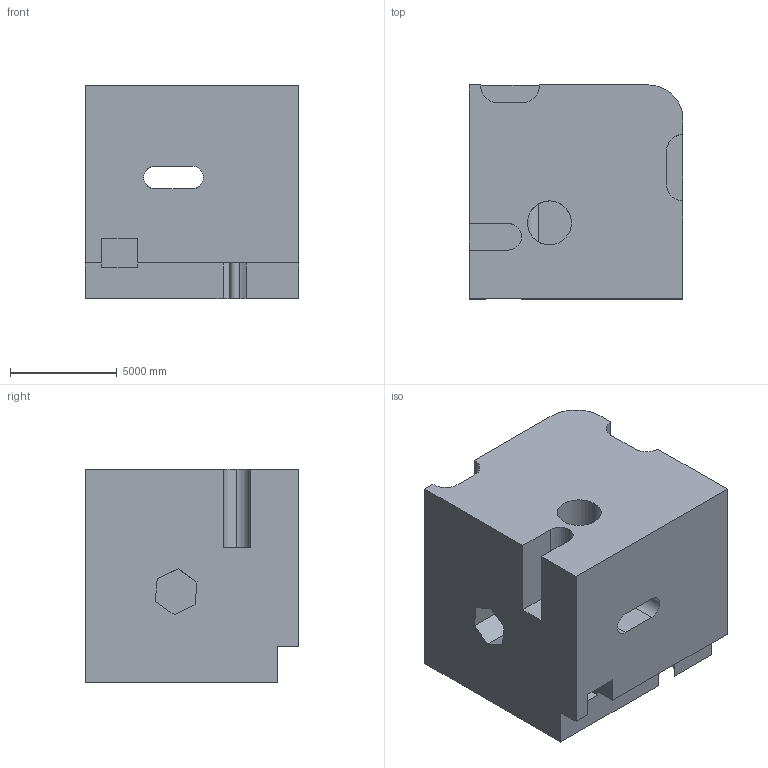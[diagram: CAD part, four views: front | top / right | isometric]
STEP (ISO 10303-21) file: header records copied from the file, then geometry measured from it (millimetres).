
FILE_DESCRIPTION (( 'STEP AP203' ), '1' );
FILE_NAME ('984.STEP', '2022-07-29T14:57:16', ( 'user' ), ( '' ), 'SwSTEP 2.0', 'SolidWorks 2021', '' );
FILE_SCHEMA (( 'CONFIG_CONTROL_DESIGN' ));
Length unit declared in the file: centimetre
Products named in the file (1): 984
Bounding box: 10000 x 10000 x 10000 mm (x, y, z)
Volume: 853676695030.9 mm3; surface area: 808644702.5 mm2
Topology: 1 solids, 1 shells, 50 faces, 147 edges, 98 vertices
Faces by surface type: plane 35, cylinder 15
Entity records: 1878 total; most frequent: CARTESIAN_POINT 436, ORIENTED_EDGE 294, DIRECTION 277, EDGE_CURVE 147, LINE 107, VECTOR 107, VERTEX_POINT 98, AXIS2_PLACEMENT_3D 85
